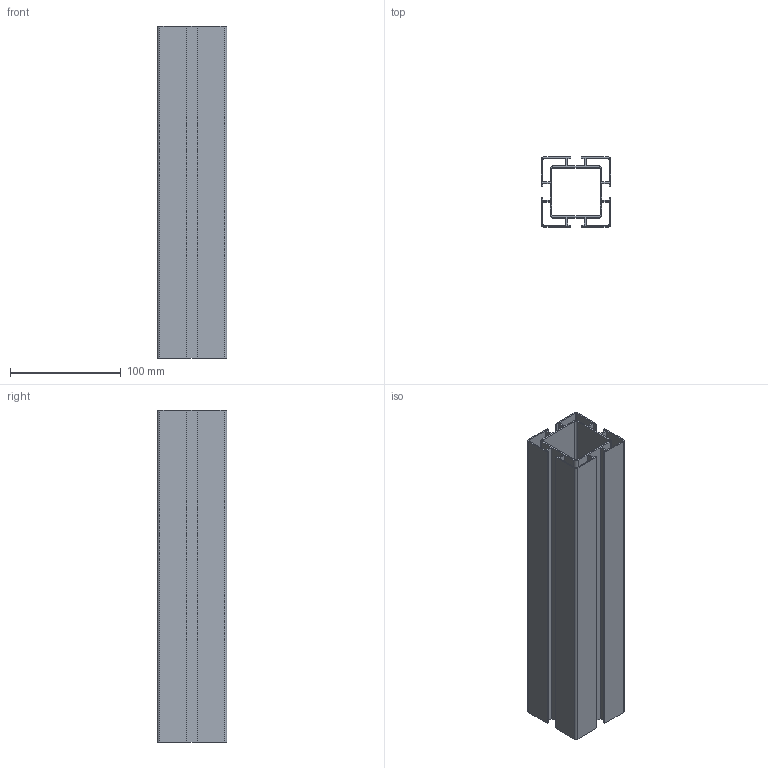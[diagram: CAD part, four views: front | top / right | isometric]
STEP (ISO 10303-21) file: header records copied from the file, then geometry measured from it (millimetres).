
FILE_DESCRIPTION (( 'STEP AP203' ), '1' );
FILE_NAME ('CG-6363-10.STEP', '2015-10-08T02:20:48', ( '' ), ( '' ), 'SwSTEP 2.0', 'SolidWorks 2013', '' );
FILE_SCHEMA (( 'CONFIG_CONTROL_DESIGN' ));
Length unit declared in the file: millimetre
Products named in the file (1): CG-6363-10
Bounding box: 63 x 63 x 300 mm (x, y, z)
Volume: 181179.6 mm3; surface area: 259038.7 mm2
Topology: 1 solids, 1 shells, 82 faces, 240 edges, 160 vertices
Faces by surface type: plane 66, cylinder 16
Entity records: 2793 total; most frequent: CARTESIAN_POINT 483, ORIENTED_EDGE 480, DIRECTION 438, EDGE_CURVE 240, VECTOR 208, LINE 208, VERTEX_POINT 160, AXIS2_PLACEMENT_3D 115
